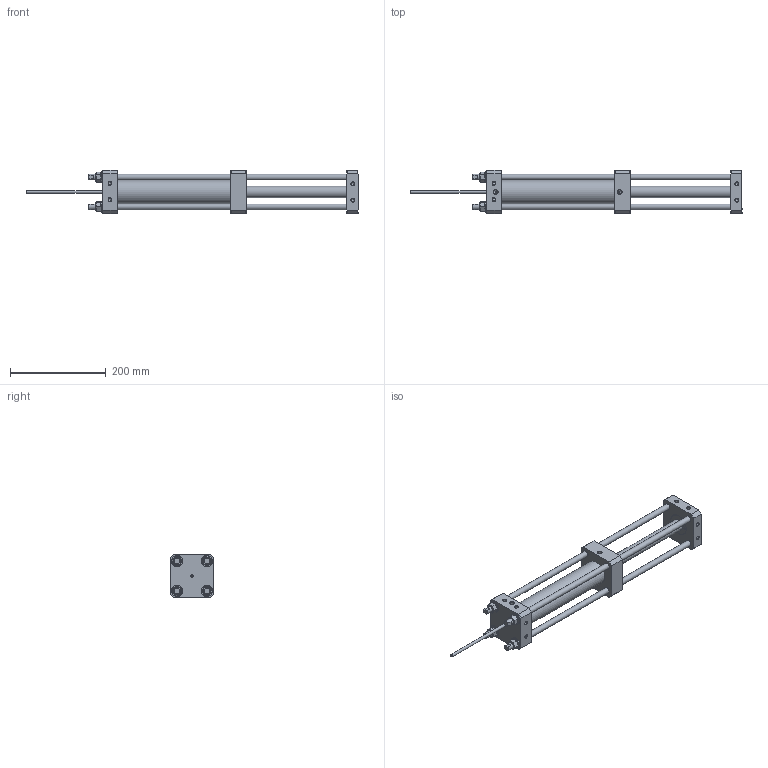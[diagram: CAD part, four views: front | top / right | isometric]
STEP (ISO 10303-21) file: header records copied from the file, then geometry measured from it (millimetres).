
FILE_DESCRIPTION(/* description */ (''),/* implementation_level */ '2;1');
FILE_NAME(/* name */ 'H13.1000.STP',/* time_stamp */ '2026-06-09T22:08:27+02:00',/* author */ ('janos'),/* organization */ (''),/* preprocessor_version */ 'ST-DEVELOPER v19.2',/* originating_system */ 'Autodesk Inventor 2024',/* authorisation */ '');
FILE_SCHEMA (('AUTOMOTIVE_DESIGN { 1 0 10303 214 3 1 1 }'));
Length unit declared in the file: millimetre
Products named in the file (1): HDÜ.BG.1000.13.1_Vereinfachen_1
Bounding box: 692 x 90 x 90 mm (x, y, z)
Volume: 1466673 mm3; surface area: 218723.5 mm2
Topology: 1 solids, 1 shells, 238 faces, 595 edges, 376 vertices
Faces by surface type: plane 91, cone 89, cylinder 57, torus 1
Full cylindrical faces by diameter (mm): 3 x2, 6 x1, 6.647 x16, 8.566 x2, 12 x8, 13 x4, 14.376 x1, 24 x5, 45 x1, 50 x1
Entity records: 7330 total; most frequent: CARTESIAN_POINT 1480, DIRECTION 1184, ORIENTED_EDGE 1158, EDGE_CURVE 579, AXIS2_PLACEMENT_3D 476, VERTEX_POINT 376, EDGE_LOOP 291, STYLED_ITEM 239
